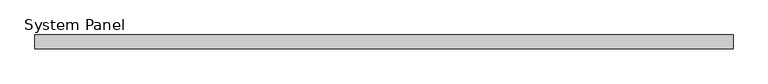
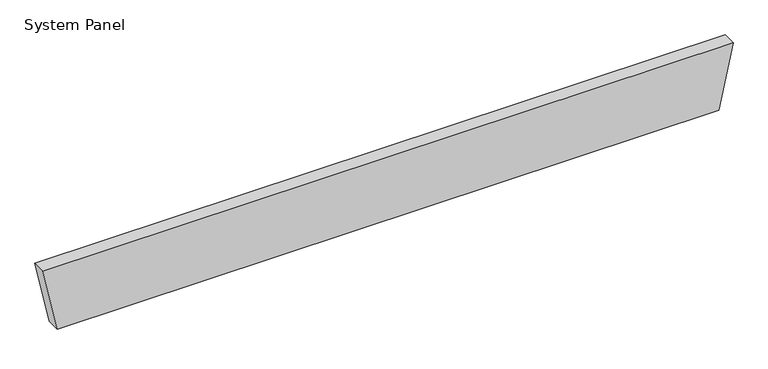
"""IFC4 building model written with IfcOpenShell, lengths in millimetres: plate geometry, System Panel : Equitilt_250mm_Plain_Surfmist."""

import ifcopenshell
import ifcopenshell.guid

model = None  # the IFC model being written
_history = None  # IfcOwnerHistory: only IFC2X3 demands one
_inside = {}  # id of a spatial element -> (the spatial element, [elements in it])
_under = {}  # id of a project, library or spatial element -> (it, [spatial elements below it])
_declared = {}  # id of a project -> (the project, [libraries it declares])
_typed = {}  # id of a type object -> (the type object, [elements of that type])
_made_of = {}  # id of a material, layer set ... -> (it, [elements and type objects made of it])


def new_model(schema):
    """Start an empty IFC model of exactly this schema.

    Asked for "IFC4X3", IfcOpenShell would pick the latest addendum, in which some entities
    have other attributes; the version numbers below select the first issue.
    IFC2X3 requires an IfcOwnerHistory on every rooted entity: one is made here for all.
    """
    global model, _history
    if schema == "IFC4X3":
        model = ifcopenshell.file(schema_version=(4, 3, 0, 0))
    else:
        model = ifcopenshell.file(schema=schema)
    _inside.clear()
    _under.clear()
    _declared.clear()
    _typed.clear()
    _made_of.clear()
    _history = None
    if model.schema == "IFC2X3":
        org = make("IfcOrganization", Name="unknown")
        user = make(
            "IfcPersonAndOrganization",
            ThePerson=make("IfcPerson", FamilyName="unknown"),
            TheOrganization=org,
        )
        app = make(
            "IfcApplication",
            ApplicationDeveloper=org,
            Version="unknown",
            ApplicationFullName="unknown",
            ApplicationIdentifier="unknown",
        )
        _history = make(
            "IfcOwnerHistory",
            OwningUser=user,
            OwningApplication=app,
            ChangeAction="ADDED",
            CreationDate=0,
        )
    return model


def make(cls, **values):
    """One entity of the class cls with the attributes given. An attribute that is None is left unset."""
    return model.create_entity(
        cls, **{name: value for name, value in values.items() if value is not None}
    )


def rooted(cls, **values):
    """An entity with a GlobalId (a new one), such as an element, a storey or a relation."""
    return make(cls, GlobalId=ifcopenshell.guid.new(), OwnerHistory=_history, **values)


def si_unit(unit_type, name, prefix=None):
    """IfcSIUnit, for example si_unit("LENGTHUNIT", "METRE", prefix="MILLI")."""
    return make("IfcSIUnit", UnitType=unit_type, Prefix=prefix, Name=name)


def assignment(units):
    """IfcUnitAssignment: the units of a project."""
    return None if units is None else make("IfcUnitAssignment", Units=units)


def point(xyz):
    """IfcCartesianPoint."""
    return None if xyz is None else make("IfcCartesianPoint", Coordinates=xyz)


def direction(xyz):
    """IfcDirection."""
    return None if xyz is None else make("IfcDirection", DirectionRatios=xyz)


def frame(location, z_axis=None, x_axis=None):
    """IfcAxis2Placement3D, a coordinate frame: its origin and axes. An axis left out is left unset."""
    return make(
        "IfcAxis2Placement3D",
        Location=point(location),
        Axis=direction(z_axis),
        RefDirection=direction(x_axis),
    )


def origin():
    """The frame at (0, 0, 0) with its axes left unset."""
    return frame((0.0, 0.0, 0.0))


def place(relative_to, where):
    """IfcLocalPlacement: puts the frame where relative to a parent placement (None: the world)."""
    return make(
        "IfcLocalPlacement", PlacementRelTo=relative_to, RelativePlacement=where
    )


def context(
    kind, dimensions, precision=None, world=None, true_north=None, identifier=None
):
    """IfcGeometricRepresentationContext, for example the 3D "Model" context."""
    return make(
        "IfcGeometricRepresentationContext",
        ContextIdentifier=identifier,
        ContextType=kind,
        CoordinateSpaceDimension=dimensions,
        Precision=precision,
        WorldCoordinateSystem=world,
        TrueNorth=true_north,
    )


def project(units=None, contexts=None):
    """IfcProject with its units and contexts."""
    return rooted(
        "IfcProject",
        Name="project",
        RepresentationContexts=contexts,
        UnitsInContext=assignment(units),
    )


def spatial(cls, under=None, at=None, **own):
    """A site, building, storey or space (cls), placed at a placement, below another one or the project."""
    s = rooted(cls, ObjectPlacement=at, **own)
    if under is not None:
        _under.setdefault(under.id(), (under, []))[1].append(s)
    return s


def polyline(points):
    """IfcPolyline through the points."""
    return make("IfcPolyline", Points=[point(p) for p in points])


def outline(outer, holes=None, kind="AREA"):
    """IfcArbitraryClosedProfileDef: a profile drawn as a closed curve; with holes, ...WithVoids."""
    if holes is None:
        return make("IfcArbitraryClosedProfileDef", ProfileType=kind, OuterCurve=outer)
    return make(
        "IfcArbitraryProfileDefWithVoids",
        ProfileType=kind,
        OuterCurve=outer,
        InnerCurves=holes,
    )


def extrude(swept, where, along, depth):
    """IfcExtrudedAreaSolid: the profile swept, set in the frame where, extruded along a direction by depth."""
    return make(
        "IfcExtrudedAreaSolid",
        SweptArea=swept,
        Position=where,
        ExtrudedDirection=direction(along),
        Depth=depth,
    )


def shape(context_of_items, identifier, shape_type, items):
    """IfcShapeRepresentation: the items that make up one representation, for example the "Body"."""
    return make(
        "IfcShapeRepresentation",
        ContextOfItems=context_of_items,
        RepresentationIdentifier=identifier,
        RepresentationType=shape_type,
        Items=items,
    )


def source(mapping_origin, context_of_items, identifier, shape_type, items):
    """IfcRepresentationMap: a shape defined once, which mapped items show again and again."""
    return make(
        "IfcRepresentationMap",
        MappingOrigin=mapping_origin,
        MappedRepresentation=shape(context_of_items, identifier, shape_type, items),
    )


def transform(
    local_origin,
    x_axis=None,
    y_axis=None,
    z_axis=None,
    scale=None,
    scale2=None,
    scale3=None,
    uniform=True,
):
    """IfcCartesianTransformationOperator3D, or its non-uniform kind. x_axis, y_axis, z_axis: its Axis1, 2, 3."""
    if uniform:
        return make(
            "IfcCartesianTransformationOperator3D",
            Axis1=direction(x_axis),
            Axis2=direction(y_axis),
            LocalOrigin=point(local_origin),
            Scale=scale,
            Axis3=direction(z_axis),
        )
    return make(
        "IfcCartesianTransformationOperator3DnonUniform",
        Axis1=direction(x_axis),
        Axis2=direction(y_axis),
        LocalOrigin=point(local_origin),
        Scale=scale,
        Axis3=direction(z_axis),
        Scale2=scale2,
        Scale3=scale3,
    )


def mapped(mapping_source, mapping_target):
    """IfcMappedItem: shows the shape of a source again, moved by a transform."""
    return make(
        "IfcMappedItem", MappingSource=mapping_source, MappingTarget=mapping_target
    )


def made_of(thing, what):
    """Note that an element or type object is made of a material, layer set ...; save() writes the relation."""
    if what is not None:
        _made_of.setdefault(what.id(), (what, []))[1].append(thing)
    return thing


def element(
    cls,
    number,
    at=None,
    inside=None,
    cuts=None,
    type_object=None,
    material=None,
    context=None,
    identifier="Body",
    shape_type=None,
    held_by="IfcProductDefinitionShape",
    body=None,
    shapes=None,
    **own,
):
    """One element of the class cls, such as IfcWall. Its Tag is "e" and its number.

    at: its placement. inside: the storey or other place that contains it. cuts: it is an
    opening in that element (IfcRelVoidsElement). A single representation is given by context,
    identifier, shape_type and body (its items); several are given by shapes. held_by: the class
    of the entity that holds the representations. save() writes the other relations.
    """
    e = rooted(cls, Tag="e%d" % number, ObjectPlacement=at, **own)
    if body is not None:
        shapes = [shape(context, identifier, shape_type, body)]
    if shapes is not None:
        e.Representation = make(held_by, Representations=shapes)
    if inside is not None:
        _inside.setdefault(inside.id(), (inside, []))[1].append(e)
    if cuts is not None:
        rooted(
            "IfcRelVoidsElement", RelatingBuildingElement=cuts, RelatedOpeningElement=e
        )
    if type_object is not None:
        _typed.setdefault(type_object.id(), (type_object, []))[1].append(e)
    return made_of(e, material)


def aggregate(whole, parts):
    """IfcRelAggregates: a whole, such as a stair, and the parts it consists of."""
    return rooted("IfcRelAggregates", RelatingObject=whole, RelatedObjects=parts)


def save(model, path):
    """Write the relations noted so far, then the file.

    IfcRelAggregates (storeys below a building ...), IfcRelContainedInSpatialStructure (elements
    in a storey), IfcRelDefinesByType, IfcRelAssociatesMaterial and IfcRelDeclares: one each for
    every whole, place, type object, material and project.
    """
    for whole, parts in _under.values():
        aggregate(whole, parts)
    for where, things in _inside.values():
        rooted(
            "IfcRelContainedInSpatialStructure",
            RelatedElements=things,
            RelatingStructure=where,
        )
    for kind, things in _typed.values():
        rooted("IfcRelDefinesByType", RelatedObjects=things, RelatingType=kind)
    for what, things in _made_of.values():
        rooted("IfcRelAssociatesMaterial", RelatedObjects=things, RelatingMaterial=what)
    for by, libraries in _declared.values():
        rooted("IfcRelDeclares", RelatingContext=by, RelatedDefinitions=libraries)
    model.write(path)


def system_panel_6ea07461(model_context):
    return source(origin(), model_context, "Body", "SweptSolid", [
        extrude(outline(polyline([(0.0, -6000.0), (0.0, 6000.0), (1200.0, 6260.8716619), (1200.0, -6260.8716619), (0.0, -6000.0)])), frame((0.0, -250.0, 0.0), z_axis=(0.0, 1.0, 0.0), x_axis=(0.0, 0.0, 1.0)), (0.0, 0.0, 1.0), 250.0),
    ])


if __name__ == "__main__":
    model = new_model("IFC4")
    model_context = context("Model", 3, world=origin())
    ifc_project = project(units=[si_unit("LENGTHUNIT", "METRE", prefix="MILLI")], contexts=[model_context])
    site = spatial("IfcSite", under=ifc_project)
    building = spatial("IfcBuilding", under=site)
    placement = place(None, origin())
    system_panel_shape = system_panel_6ea07461(model_context)
    element("IfcPlate", 1, ObjectType="System Panel : Equitilt_250mm_Plain_Surfmist", at=placement, inside=building, context=model_context, shape_type="MappedRepresentation", body=[
        mapped(system_panel_shape, transform((0.0, 0.0, 0.0), x_axis=(1.0, 0.0, 0.0), y_axis=(0.0, 1.0, 0.0), z_axis=(0.0, 0.0, 1.0))),
    ])
    save(model, "model.ifc")
